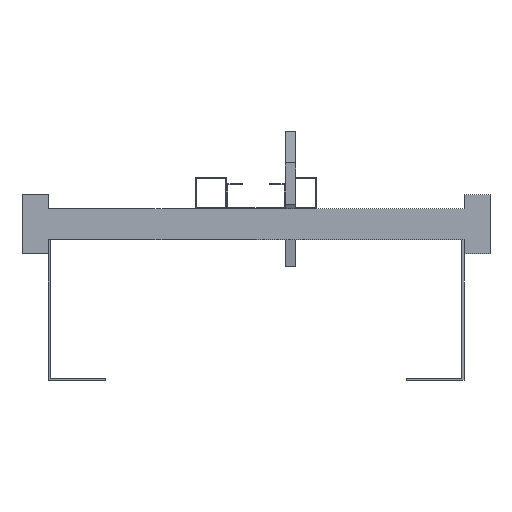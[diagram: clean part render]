
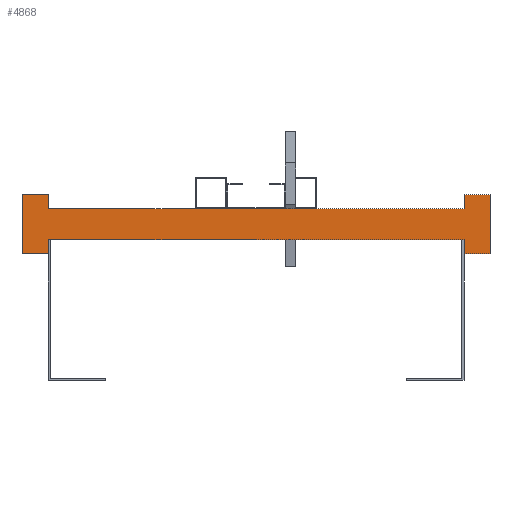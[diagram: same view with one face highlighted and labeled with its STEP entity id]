
A CAD part, front view. The second image highlights one B-rep face of the part: STEP entity #4868.
In plain terms, the highlighted planar face has unit normal (0, -1, 0).
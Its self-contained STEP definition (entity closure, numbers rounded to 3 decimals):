
#1749=DIRECTION('',(0.,0.,1.));
#1750=VECTOR('',#1749,13.5);
#1751=CARTESIAN_POINT('',(200.,0.,-28.5));
#1752=LINE('',#1751,#1750);
#1753=DIRECTION('',(0.,0.,-1.));
#1754=VECTOR('',#1753,13.5);
#1755=CARTESIAN_POINT('',(-200.,0.,-15.));
#1756=LINE('',#1755,#1754);
#1757=DIRECTION('',(-1.,0.,0.));
#1758=VECTOR('',#1757,25.);
#1759=CARTESIAN_POINT('',(-200.,0.,-28.5));
#1760=LINE('',#1759,#1758);
#1761=DIRECTION('',(0.,0.,1.));
#1762=VECTOR('',#1761,57.);
#1763=CARTESIAN_POINT('',(-225.,0.,-28.5));
#1764=LINE('',#1763,#1762);
#1765=DIRECTION('',(1.,0.,0.));
#1766=VECTOR('',#1765,25.);
#1767=CARTESIAN_POINT('',(-225.,0.,28.5));
#1768=LINE('',#1767,#1766);
#1769=DIRECTION('',(0.,0.,-1.));
#1770=VECTOR('',#1769,13.5);
#1771=CARTESIAN_POINT('',(-200.,0.,28.5));
#1772=LINE('',#1771,#1770);
#1773=DIRECTION('',(0.,0.,1.));
#1774=VECTOR('',#1773,13.5);
#1775=CARTESIAN_POINT('',(200.,0.,15.));
#1776=LINE('',#1775,#1774);
#1777=DIRECTION('',(1.,0.,0.));
#1778=VECTOR('',#1777,25.);
#1779=CARTESIAN_POINT('',(200.,0.,28.5));
#1780=LINE('',#1779,#1778);
#1781=DIRECTION('',(0.,0.,-1.));
#1782=VECTOR('',#1781,57.);
#1783=CARTESIAN_POINT('',(225.,0.,28.5));
#1784=LINE('',#1783,#1782);
#1785=DIRECTION('',(-1.,0.,0.));
#1786=VECTOR('',#1785,25.);
#1787=CARTESIAN_POINT('',(225.,0.,-28.5));
#1788=LINE('',#1787,#1786);
#1789=DIRECTION('',(1.,0.,0.));
#1790=VECTOR('',#1789,400.);
#1791=CARTESIAN_POINT('',(-200.,0.,-15.));
#1792=LINE('',#1791,#1790);
#1801=DIRECTION('',(1.,0.,0.));
#1802=VECTOR('',#1801,400.);
#1803=CARTESIAN_POINT('',(-200.,0.,15.));
#1804=LINE('',#1803,#1802);
#1857=CARTESIAN_POINT('',(-225.,0.,28.5));
#1858=CARTESIAN_POINT('',(-200.,0.,28.5));
#1859=VERTEX_POINT('',#1857);
#1860=VERTEX_POINT('',#1858);
#1861=CARTESIAN_POINT('',(-200.,0.,-28.5));
#1862=CARTESIAN_POINT('',(-225.,0.,-28.5));
#1863=VERTEX_POINT('',#1861);
#1864=VERTEX_POINT('',#1862);
#1865=CARTESIAN_POINT('',(225.,0.,28.5));
#1866=CARTESIAN_POINT('',(225.,0.,-28.5));
#1867=VERTEX_POINT('',#1865);
#1868=VERTEX_POINT('',#1866);
#1869=CARTESIAN_POINT('',(200.,0.,-28.5));
#1870=VERTEX_POINT('',#1869);
#1871=CARTESIAN_POINT('',(200.,0.,28.5));
#1872=VERTEX_POINT('',#1871);
#1889=CARTESIAN_POINT('',(-200.,0.,-15.));
#1891=VERTEX_POINT('',#1889);
#1893=CARTESIAN_POINT('',(-200.,0.,15.));
#1895=VERTEX_POINT('',#1893);
#1897=CARTESIAN_POINT('',(200.,0.,-15.));
#1899=VERTEX_POINT('',#1897);
#1901=CARTESIAN_POINT('',(200.,0.,15.));
#1903=VERTEX_POINT('',#1901);
#4843=CARTESIAN_POINT('',(0.,0.,0.));
#4844=DIRECTION('',(0.,1.,0.));
#4845=DIRECTION('',(1.,0.,0.));
#4846=AXIS2_PLACEMENT_3D('',#4843,#4844,#4845);
#4847=PLANE('',#4846);
#4848=ORIENTED_EDGE('',*,*,#2808,.T.);
#4850=ORIENTED_EDGE('',*,*,#4849,.F.);
#4851=ORIENTED_EDGE('',*,*,#2520,.T.);
#4852=ORIENTED_EDGE('',*,*,#3849,.T.);
#4854=ORIENTED_EDGE('',*,*,#4853,.T.);
#4856=ORIENTED_EDGE('',*,*,#4855,.T.);
#4857=ORIENTED_EDGE('',*,*,#2528,.T.);
#4859=ORIENTED_EDGE('',*,*,#4858,.T.);
#4860=ORIENTED_EDGE('',*,*,#2800,.T.);
#4862=ORIENTED_EDGE('',*,*,#4861,.T.);
#4864=ORIENTED_EDGE('',*,*,#4863,.T.);
#4865=ORIENTED_EDGE('',*,*,#4166,.T.);
#4866=EDGE_LOOP('',(#4848,#4850,#4851,#4852,#4854,#4856,#4857,#4859,#4860,#4862,
#4864,#4865));
#4867=FACE_OUTER_BOUND('',#4866,.F.);
#2520=EDGE_CURVE('',#1891,#1863,#1756,.T.);
#2528=EDGE_CURVE('',#1860,#1895,#1772,.T.);
#2800=EDGE_CURVE('',#1903,#1872,#1776,.T.);
#2808=EDGE_CURVE('',#1870,#1899,#1752,.T.);
#3849=EDGE_CURVE('',#1863,#1864,#1760,.T.);
#4166=EDGE_CURVE('',#1868,#1870,#1788,.T.);
#4849=EDGE_CURVE('',#1891,#1899,#1792,.T.);
#4853=EDGE_CURVE('',#1864,#1859,#1764,.T.);
#4855=EDGE_CURVE('',#1859,#1860,#1768,.T.);
#4858=EDGE_CURVE('',#1895,#1903,#1804,.T.);
#4861=EDGE_CURVE('',#1872,#1867,#1780,.T.);
#4863=EDGE_CURVE('',#1867,#1868,#1784,.T.);
#4868=ADVANCED_FACE('',(#4867),#4847,.F.);
